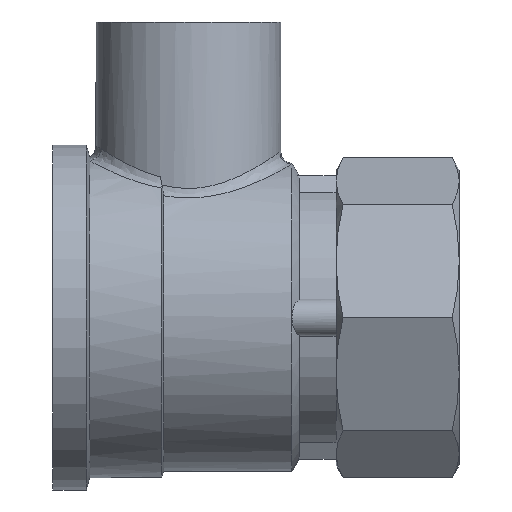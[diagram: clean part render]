
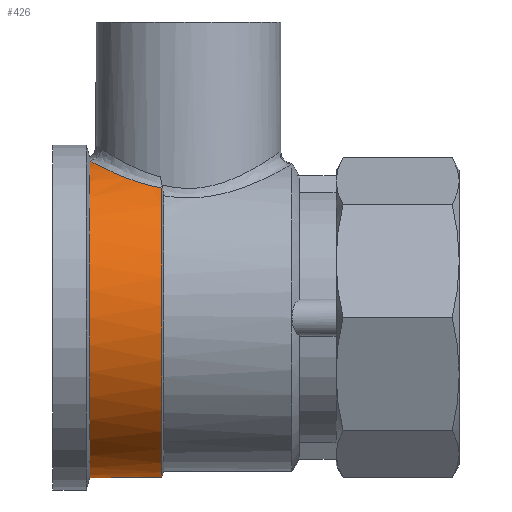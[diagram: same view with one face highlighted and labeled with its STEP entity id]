
A CAD part, left-side view. The second image highlights one B-rep face of the part: STEP entity #426.
In plain terms, the highlighted cylindrical face has radius 13 mm (diameter 26 mm), a partial arc.
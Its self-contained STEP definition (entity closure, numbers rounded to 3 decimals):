
#426=ADVANCED_FACE('',(#1091),#1093,.T.);
#1091=FACE_BOUND('',#1092,.T.);
#1092=EDGE_LOOP('',(#2123,#2124,#2125,#2126,#2127));
#1093=CYLINDRICAL_SURFACE('',#1094,13.);
#1094=AXIS2_PLACEMENT_3D('',#1095,#1096,#1097);
#1095=CARTESIAN_POINT('',(0.,24.,0.));
#1096=DIRECTION('',(0.,1.,0.));
#1097=DIRECTION('',(-1.,0.,0.));
#2123=ORIENTED_EDGE('',*,*,#2405,.F.);
#2124=ORIENTED_EDGE('',*,*,#2406,.T.);
#2125=ORIENTED_EDGE('',*,*,#2407,.F.);
#2126=ORIENTED_EDGE('',*,*,#2408,.F.);
#2127=ORIENTED_EDGE('',*,*,#2409,.F.);
#2405=EDGE_CURVE('',#2689,#2690,#2691,.T.);
#2406=EDGE_CURVE('',#2689,#2692,#2693,.T.);
#2407=EDGE_CURVE('',#2694,#2692,#2695,.T.);
#2408=EDGE_CURVE('',#2696,#2694,#2697,.T.);
#2409=EDGE_CURVE('',#2690,#2696,#2698,.T.);
#2689=VERTEX_POINT('',#4059);
#2690=VERTEX_POINT('',#4060);
#2691=B_SPLINE_CURVE_WITH_KNOTS('',3,
(#4061,#4062,#4063,#4064,#4065,#4066,#4067,#4068,#4069,#4070,#4071,#4072,#4073,#4074,
#4075),
.UNSPECIFIED.,.F.,.F.,
(4,1,1,1,1,1,1,1,1,1,1,1,4),
(0.,0.123,0.231,0.322,0.417,0.505,
0.585,0.652,0.724,0.801,0.89,
0.956,1.),
.UNSPECIFIED.);
#2692=VERTEX_POINT('',#4076);
#2693=CIRCLE('',#4077,13.);
#2694=VERTEX_POINT('',#4081);
#2695=B_SPLINE_CURVE_WITH_KNOTS('',3,
(#4082,#4083,#4084,#4085,#4086,#4087,#4088,#4089,#4090,#4091,#4092,#4093,#4094,#4095,
#4096,#4097),
.UNSPECIFIED.,.F.,.F.,
(4,1,1,1,1,1,1,1,1,1,1,1,1,4),
(0.,0.117,0.208,0.274,0.327,0.38,
0.442,0.521,0.617,0.716,0.805,
0.894,0.958,1.),
.UNSPECIFIED.);
#2696=VERTEX_POINT('',#4098);
#2697=CIRCLE('',#4099,13.);
#2698=CIRCLE('',#4103,13.);
#4059=CARTESIAN_POINT('',(7.64,24.134,10.518));
#4060=CARTESIAN_POINT('',(2.667,30.,12.723));
#4061=CARTESIAN_POINT('',(7.64,24.134,10.518));
#4062=CARTESIAN_POINT('',(7.563,24.468,10.574));
#4063=CARTESIAN_POINT('',(7.374,25.077,10.709));
#4064=CARTESIAN_POINT('',(7.036,25.881,10.934));
#4065=CARTESIAN_POINT('',(6.665,26.574,11.164));
#4066=CARTESIAN_POINT('',(6.27,27.181,11.391));
#4067=CARTESIAN_POINT('',(5.843,27.728,11.616));
#4068=CARTESIAN_POINT('',(5.427,28.182,11.816));
#4069=CARTESIAN_POINT('',(5.009,28.577,11.999));
#4070=CARTESIAN_POINT('',(4.572,28.938,12.173));
#4071=CARTESIAN_POINT('',(4.058,29.302,12.355));
#4072=CARTESIAN_POINT('',(3.526,29.614,12.517));
#4073=CARTESIAN_POINT('',(3.048,29.846,12.64));
#4074=CARTESIAN_POINT('',(2.776,29.956,12.701));
#4075=CARTESIAN_POINT('',(2.667,30.,12.723));
#4076=CARTESIAN_POINT('',(-7.64,24.134,10.518));
#4077=AXIS2_PLACEMENT_3D('',#4078,#4079,#4080);
#4078=CARTESIAN_POINT('',(0.,24.134,0.));
#4079=DIRECTION('',(0.,1.,0.));
#4080=DIRECTION('',(0.588,0.,0.809));
#4081=CARTESIAN_POINT('',(-2.667,30.,12.723));
#4082=CARTESIAN_POINT('',(-2.667,30.,12.723));
#4083=CARTESIAN_POINT('',(-2.958,29.883,12.662));
#4084=CARTESIAN_POINT('',(-3.467,29.655,12.537));
#4085=CARTESIAN_POINT('',(-4.089,29.28,12.344));
#4086=CARTESIAN_POINT('',(-4.54,28.959,12.184));
#4087=CARTESIAN_POINT('',(-4.891,28.676,12.046));
#4088=CARTESIAN_POINT('',(-5.22,28.382,11.908));
#4089=CARTESIAN_POINT('',(-5.579,28.022,11.744));
#4090=CARTESIAN_POINT('',(-5.987,27.554,11.543));
#4091=CARTESIAN_POINT('',(-6.416,26.972,11.31));
#4092=CARTESIAN_POINT('',(-6.807,26.326,11.078));
#4093=CARTESIAN_POINT('',(-7.136,25.657,10.868));
#4094=CARTESIAN_POINT('',(-7.379,25.042,10.704));
#4095=CARTESIAN_POINT('',(-7.538,24.529,10.592));
#4096=CARTESIAN_POINT('',(-7.614,24.247,10.537));
#4097=CARTESIAN_POINT('',(-7.64,24.134,10.518));
#4098=CARTESIAN_POINT('',(-13.,30.,0.));
#4099=AXIS2_PLACEMENT_3D('',#4100,#4101,#4102);
#4100=CARTESIAN_POINT('',(0.,30.,0.));
#4101=DIRECTION('',(0.,1.,0.));
#4102=DIRECTION('',(-1.,0.,0.));
#4103=AXIS2_PLACEMENT_3D('',#4104,#4105,#4106);
#4104=CARTESIAN_POINT('',(0.,30.,0.));
#4105=DIRECTION('',(0.,1.,0.));
#4106=DIRECTION('',(0.205,0.,0.979));
